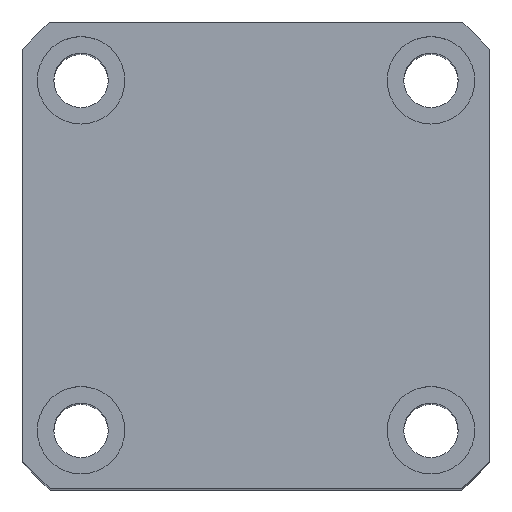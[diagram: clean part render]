
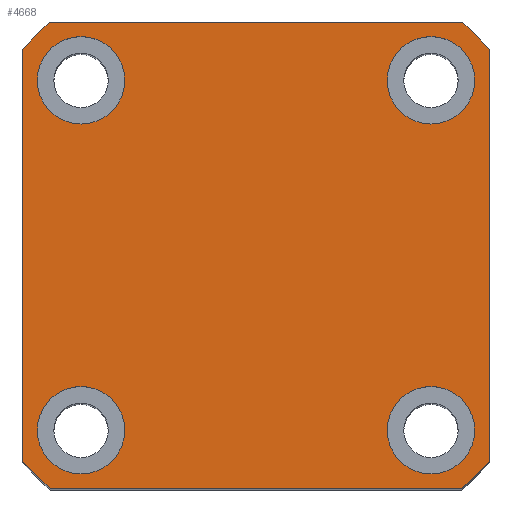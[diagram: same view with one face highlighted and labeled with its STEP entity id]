
A CAD part, top view. The second image highlights one B-rep face of the part: STEP entity #4668.
In plain terms, the highlighted planar face has unit normal (0, 0, 1) as drawn and (1, 0, 0) by its records, which use the part's own axes.
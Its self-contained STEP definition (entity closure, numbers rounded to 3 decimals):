
#63 = VERTEX_POINT ( 'NONE', #3920 ) ;
#86 = VERTEX_POINT ( 'NONE', #2599 ) ;
#188 = FACE_BOUND ( 'NONE', #2956, .T. ) ;
#420 = CIRCLE ( 'NONE', #8458, 32. ) ;
#510 = LINE ( 'NONE', #677, #9358 ) ;
#548 = CIRCLE ( 'NONE', #7026, 4.5 ) ;
#555 = CARTESIAN_POINT ( 'NONE',  ( 85., -18., -18. ) ) ;
#587 = DIRECTION ( 'NONE',  ( 0., 0., -1. ) ) ;
#669 = CIRCLE ( 'NONE', #10097, 4.5 ) ;
#677 = CARTESIAN_POINT ( 'NONE',  ( 85., -24., 24. ) ) ;
#706 = ORIENTED_EDGE ( 'NONE', *, *, #7754, .T. ) ;
#718 = CARTESIAN_POINT ( 'NONE',  ( 85., 18., 18. ) ) ;
#743 = DIRECTION ( 'NONE',  ( 1., 0., 0. ) ) ;
#858 = ORIENTED_EDGE ( 'NONE', *, *, #6428, .T. ) ;
#970 = ORIENTED_EDGE ( 'NONE', *, *, #2901, .T. ) ;
#1083 = ORIENTED_EDGE ( 'NONE', *, *, #9922, .T. ) ;
#1195 = ORIENTED_EDGE ( 'NONE', *, *, #2003, .T. ) ;
#1209 = ORIENTED_EDGE ( 'NONE', *, *, #3659, .T. ) ;
#1333 = ORIENTED_EDGE ( 'NONE', *, *, #10307, .F. ) ;
#1349 = DIRECTION ( 'NONE',  ( 0., 0., -1. ) ) ;
#1370 = CARTESIAN_POINT ( 'NONE',  ( 85., 21.166, -24. ) ) ;
#1373 = ORIENTED_EDGE ( 'NONE', *, *, #6485, .F. ) ;
#1453 = ORIENTED_EDGE ( 'NONE', *, *, #9133, .F. ) ;
#1486 = CARTESIAN_POINT ( 'NONE',  ( 85., 18., -18. ) ) ;
#1510 = DIRECTION ( 'NONE',  ( 0., 0., -1. ) ) ;
#1524 = DIRECTION ( 'NONE',  ( 0., 0., -1. ) ) ;
#1535 = AXIS2_PLACEMENT_3D ( 'NONE', #10519, #5543, #587 ) ;
#1643 = CIRCLE ( 'NONE', #9961, 32. ) ;
#1692 = DIRECTION ( 'NONE',  ( 1., 0., 0. ) ) ;
#1738 = DIRECTION ( 'NONE',  ( 1., 0., 0. ) ) ;
#1830 = AXIS2_PLACEMENT_3D ( 'NONE', #3580, #9408, #4381 ) ;
#1917 = DIRECTION ( 'NONE',  ( 0., 0., -1. ) ) ;
#1929 = DIRECTION ( 'NONE',  ( 0., 0., -1. ) ) ;
#1961 = DIRECTION ( 'NONE',  ( 1., 0., 0. ) ) ;
#1974 = DIRECTION ( 'NONE',  ( 1., 0., 0. ) ) ;
#1997 = CARTESIAN_POINT ( 'NONE',  ( 85., 0., 0. ) ) ;
#2003 = EDGE_CURVE ( 'NONE', #8260, #9660, #7019, .T. ) ;
#2006 = CARTESIAN_POINT ( 'NONE',  ( 85., 0., 0. ) ) ;
#2102 = CARTESIAN_POINT ( 'NONE',  ( 85., 18., -22.5 ) ) ;
#2316 = EDGE_LOOP ( 'NONE', ( #4268, #10656 ) ) ;
#2327 = EDGE_LOOP ( 'NONE', ( #1209, #1195, #1083, #970, #858, #706, #4044, #2613 ) ) ;
#2355 = DIRECTION ( 'NONE',  ( 0., 0., -1. ) ) ;
#2523 = CARTESIAN_POINT ( 'NONE',  ( 85., -24., 21.166 ) ) ;
#2556 = VERTEX_POINT ( 'NONE', #5528 ) ;
#2587 = CARTESIAN_POINT ( 'NONE',  ( 85., -18., -22.5 ) ) ;
#2599 = CARTESIAN_POINT ( 'NONE',  ( 85., 24., 21.166 ) ) ;
#2613 = ORIENTED_EDGE ( 'NONE', *, *, #9756, .T. ) ;
#2650 = EDGE_CURVE ( 'NONE', #5456, #7453, #510, .T. ) ;
#2685 = EDGE_LOOP ( 'NONE', ( #1453, #1333 ) ) ;
#2742 = AXIS2_PLACEMENT_3D ( 'NONE', #4885, #10684, #5702 ) ;
#2852 = CIRCLE ( 'NONE', #7361, 32. ) ;
#2901 = EDGE_CURVE ( 'NONE', #86, #5709, #1643, .T. ) ;
#2956 = EDGE_LOOP ( 'NONE', ( #1373, #5046 ) ) ;
#3314 = ORIENTED_EDGE ( 'NONE', *, *, #8417, .F. ) ;
#3367 = LINE ( 'NONE', #8903, #7557 ) ;
#3457 = AXIS2_PLACEMENT_3D ( 'NONE', #555, #6354, #1349 ) ;
#3476 = CARTESIAN_POINT ( 'NONE',  ( 85., -18., 22.5 ) ) ;
#3532 = CARTESIAN_POINT ( 'NONE',  ( 85., -21.166, -24. ) ) ;
#3580 = CARTESIAN_POINT ( 'NONE',  ( 85., 0., 0. ) ) ;
#3659 = EDGE_CURVE ( 'NONE', #9952, #8260, #3786, .T. ) ;
#3786 = LINE ( 'NONE', #9868, #10163 ) ;
#3920 = CARTESIAN_POINT ( 'NONE',  ( 85., 18., -13.5 ) ) ;
#3956 = CARTESIAN_POINT ( 'NONE',  ( 85., 18., 13.5 ) ) ;
#4032 = FACE_BOUND ( 'NONE', #10482, .T. ) ;
#4037 = LINE ( 'NONE', #6021, #5986 ) ;
#4044 = ORIENTED_EDGE ( 'NONE', *, *, #2650, .T. ) ;
#4096 = DIRECTION ( 'NONE',  ( 1., 0., 0. ) ) ;
#4192 = DIRECTION ( 'NONE',  ( 1., 0., 0. ) ) ;
#4268 = ORIENTED_EDGE ( 'NONE', *, *, #9506, .F. ) ;
#4381 = DIRECTION ( 'NONE',  ( 0., 0., -1. ) ) ;
#4486 = CARTESIAN_POINT ( 'NONE',  ( 85., -18., 13.5 ) ) ;
#4550 = CIRCLE ( 'NONE', #8334, 4.5 ) ;
#4658 = CIRCLE ( 'NONE', #2742, 4.5 ) ;
#4668 = ADVANCED_FACE ( 'NONE', ( #10647, #4032, #188, #6235, #10399 ), #9734, .T. ) ;
#4885 = CARTESIAN_POINT ( 'NONE',  ( 85., -18., 18. ) ) ;
#5046 = ORIENTED_EDGE ( 'NONE', *, *, #9551, .F. ) ;
#5299 = ORIENTED_EDGE ( 'NONE', *, *, #9705, .F. ) ;
#5456 = VERTEX_POINT ( 'NONE', #2523 ) ;
#5501 = AXIS2_PLACEMENT_3D ( 'NONE', #1997, #1961, #1917 ) ;
#5528 = CARTESIAN_POINT ( 'NONE',  ( 85., -21.166, 24. ) ) ;
#5543 = DIRECTION ( 'NONE',  ( 1., 0., 0. ) ) ;
#5697 = CARTESIAN_POINT ( 'NONE',  ( 85., -18., -18. ) ) ;
#5702 = DIRECTION ( 'NONE',  ( 0., 0., -1. ) ) ;
#5709 = VERTEX_POINT ( 'NONE', #7854 ) ;
#5788 = CARTESIAN_POINT ( 'NONE',  ( 85., 24., -21.166 ) ) ;
#5986 = VECTOR ( 'NONE', #6050, 1000. ) ;
#6021 = CARTESIAN_POINT ( 'NONE',  ( 85., 24., 24. ) ) ;
#6050 = DIRECTION ( 'NONE',  ( 0., 0., 1. ) ) ;
#6235 = FACE_BOUND ( 'NONE', #2685, .T. ) ;
#6354 = DIRECTION ( 'NONE',  ( 1., 0., 0. ) ) ;
#6428 = EDGE_CURVE ( 'NONE', #5709, #2556, #3367, .T. ) ;
#6455 = VERTEX_POINT ( 'NONE', #3956 ) ;
#6485 = EDGE_CURVE ( 'NONE', #7547, #63, #7287, .T. ) ;
#6542 = DIRECTION ( 'NONE',  ( 1., 0., 0. ) ) ;
#6569 = DIRECTION ( 'NONE',  ( 0., 0., -1. ) ) ;
#6586 = VERTEX_POINT ( 'NONE', #3476 ) ;
#6706 = CARTESIAN_POINT ( 'NONE',  ( 85., -18., 18. ) ) ;
#6757 = CARTESIAN_POINT ( 'NONE',  ( 85., 18., 18. ) ) ;
#6843 = EDGE_CURVE ( 'NONE', #9620, #10472, #4550, .T. ) ;
#6851 = CARTESIAN_POINT ( 'NONE',  ( 85., 18., 22.5 ) ) ;
#7019 = CIRCLE ( 'NONE', #5501, 32. ) ;
#7026 = AXIS2_PLACEMENT_3D ( 'NONE', #6757, #1738, #7602 ) ;
#7287 = CIRCLE ( 'NONE', #8130, 4.5 ) ;
#7322 = VERTEX_POINT ( 'NONE', #4486 ) ;
#7356 = DIRECTION ( 'NONE',  ( 1., 0., 0. ) ) ;
#7361 = AXIS2_PLACEMENT_3D ( 'NONE', #9095, #4096, #9925 ) ;
#7444 = CIRCLE ( 'NONE', #9895, 4.5 ) ;
#7453 = VERTEX_POINT ( 'NONE', #8737 ) ;
#7542 = DIRECTION ( 'NONE',  ( 0., 0., -1. ) ) ;
#7547 = VERTEX_POINT ( 'NONE', #2102 ) ;
#7557 = VECTOR ( 'NONE', #9733, 1000. ) ;
#7602 = DIRECTION ( 'NONE',  ( 0., 0., -1. ) ) ;
#7754 = EDGE_CURVE ( 'NONE', #2556, #5456, #2852, .T. ) ;
#7838 = CIRCLE ( 'NONE', #3457, 4.5 ) ;
#7854 = CARTESIAN_POINT ( 'NONE',  ( 85., 21.166, 24. ) ) ;
#8130 = AXIS2_PLACEMENT_3D ( 'NONE', #1486, #7356, #2355 ) ;
#8260 = VERTEX_POINT ( 'NONE', #1370 ) ;
#8334 = AXIS2_PLACEMENT_3D ( 'NONE', #5697, #743, #6569 ) ;
#8417 = EDGE_CURVE ( 'NONE', #6586, #7322, #4658, .T. ) ;
#8458 = AXIS2_PLACEMENT_3D ( 'NONE', #9206, #4192, #10033 ) ;
#8737 = CARTESIAN_POINT ( 'NONE',  ( 85., -24., -21.166 ) ) ;
#8903 = CARTESIAN_POINT ( 'NONE',  ( 85., 24., 24. ) ) ;
#9095 = CARTESIAN_POINT ( 'NONE',  ( 85., 0., 0. ) ) ;
#9133 = EDGE_CURVE ( 'NONE', #6455, #9892, #548, .T. ) ;
#9206 = CARTESIAN_POINT ( 'NONE',  ( 85., 0., 0. ) ) ;
#9341 = DIRECTION ( 'NONE',  ( 0., 1., 0. ) ) ;
#9358 = VECTOR ( 'NONE', #1510, 1000. ) ;
#9408 = DIRECTION ( 'NONE',  ( 1., 0., 0. ) ) ;
#9506 = EDGE_CURVE ( 'NONE', #10472, #9620, #7838, .T. ) ;
#9551 = EDGE_CURVE ( 'NONE', #63, #7547, #9777, .T. ) ;
#9620 = VERTEX_POINT ( 'NONE', #9849 ) ;
#9660 = VERTEX_POINT ( 'NONE', #5788 ) ;
#9705 = EDGE_CURVE ( 'NONE', #7322, #6586, #669, .T. ) ;
#9733 = DIRECTION ( 'NONE',  ( 0., -1., 0. ) ) ;
#9734 = PLANE ( 'NONE',  #1830 ) ;
#9756 = EDGE_CURVE ( 'NONE', #7453, #9952, #420, .T. ) ;
#9777 = CIRCLE ( 'NONE', #1535, 4.5 ) ;
#9849 = CARTESIAN_POINT ( 'NONE',  ( 85., -18., -13.5 ) ) ;
#9868 = CARTESIAN_POINT ( 'NONE',  ( 85., 24., -24. ) ) ;
#9892 = VERTEX_POINT ( 'NONE', #6851 ) ;
#9895 = AXIS2_PLACEMENT_3D ( 'NONE', #718, #6542, #1524 ) ;
#9922 = EDGE_CURVE ( 'NONE', #9660, #86, #4037, .T. ) ;
#9925 = DIRECTION ( 'NONE',  ( 0., 0., -1. ) ) ;
#9952 = VERTEX_POINT ( 'NONE', #3532 ) ;
#9961 = AXIS2_PLACEMENT_3D ( 'NONE', #2006, #1974, #1929 ) ;
#10033 = DIRECTION ( 'NONE',  ( 0., 0., -1. ) ) ;
#10097 = AXIS2_PLACEMENT_3D ( 'NONE', #6706, #1692, #7542 ) ;
#10163 = VECTOR ( 'NONE', #9341, 1000. ) ;
#10307 = EDGE_CURVE ( 'NONE', #9892, #6455, #7444, .T. ) ;
#10399 = FACE_OUTER_BOUND ( 'NONE', #2327, .T. ) ;
#10472 = VERTEX_POINT ( 'NONE', #2587 ) ;
#10482 = EDGE_LOOP ( 'NONE', ( #5299, #3314 ) ) ;
#10519 = CARTESIAN_POINT ( 'NONE',  ( 85., 18., -18. ) ) ;
#10647 = FACE_BOUND ( 'NONE', #2316, .T. ) ;
#10656 = ORIENTED_EDGE ( 'NONE', *, *, #6843, .F. ) ;
#10684 = DIRECTION ( 'NONE',  ( 1., 0., 0. ) ) ;
